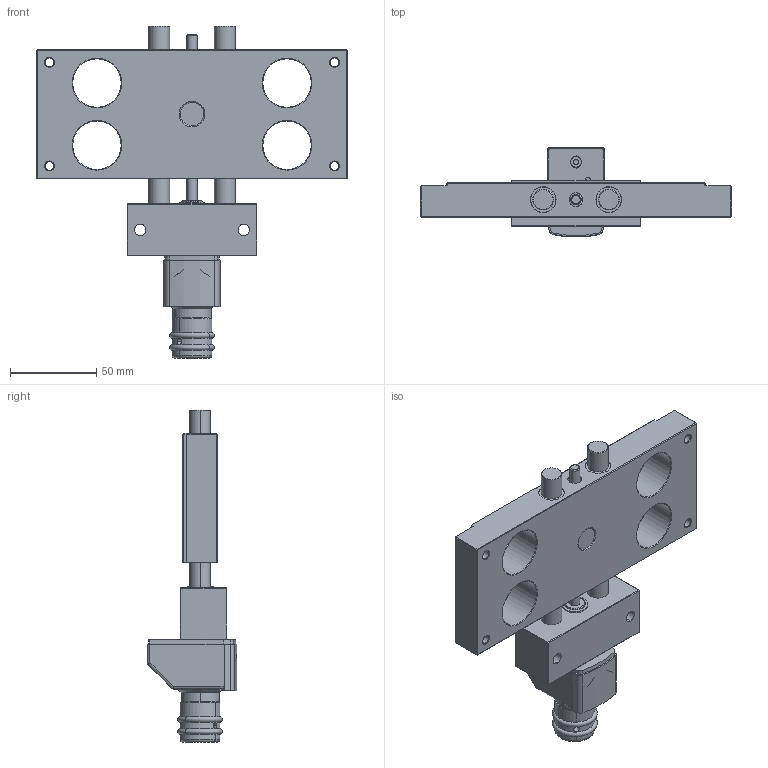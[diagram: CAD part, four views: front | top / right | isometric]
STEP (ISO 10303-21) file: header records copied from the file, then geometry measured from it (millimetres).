
FILE_DESCRIPTION (( 'STEP AP203' ), '1' );
FILE_NAME ('KT2512-L-PAE-Kreuztisch.STEP', '2016-01-15T16:59:00', ( '' ), ( '' ), 'SwSTEP 2.0', 'SolidWorks 2014', '' );
FILE_SCHEMA (( 'CONFIG_CONTROL_DESIGN' ));
Length unit declared in the file: millimetre
Products named in the file (4): KT2512-L-PAE-Kreuztisch; PT2512-000-01-Festteil-PA(E); PAE0812-DT-000-Elektronischer-Positionsanzeiger-Komplett_n_Standard; KT12-000-03-L-Schlitten-komplett
Assembly tree (3 placements, depth 2):
  KT2512-L-PAE-Kreuztisch
    PT2512-000-01-Festteil-PA(E)
    PAE0812-DT-000-Elektronischer-Positionsanzeiger-Komplett_n_Standard
    KT12-000-03-L-Schlitten-komplett
Bounding box: 180 x 51.97 x 192.13 mm (x, y, z)
Volume: 329476.5 mm3; surface area: 85951.7 mm2
Topology: 3 solids, 8 shells, 819 faces, 2005 edges, 1278 vertices
Faces by surface type: plane 441, cylinder 236, cone 132, torus 6, sphere 4
Entity records: 24927 total; most frequent: CARTESIAN_POINT 4710, DIRECTION 4236, ORIENTED_EDGE 3998, EDGE_CURVE 1999, AXIS2_PLACEMENT_3D 1484, VERTEX_POINT 1278, VECTOR 1268, LINE 1268
